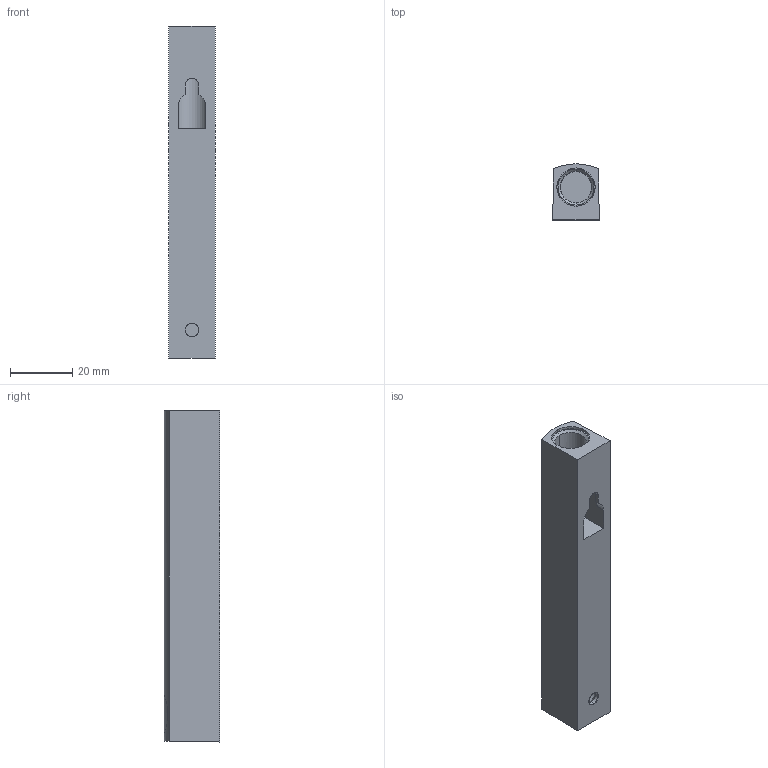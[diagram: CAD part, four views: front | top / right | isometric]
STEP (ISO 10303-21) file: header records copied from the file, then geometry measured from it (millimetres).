
FILE_DESCRIPTION((''),'2;1');
FILE_NAME('STOESSELABDECKUNG_ASM','2018-06-14T',('7ke06'),('Kesseboehmer'),'PRO/ENGINEER BY PARAMETRIC TECHNOLOGY CORPORATION, 2017170','PRO/ENGINEER BY PARAMETRIC TECHNOLOGY CORPORATION, 2017170','');
FILE_SCHEMA(('AUTOMOTIVE_DESIGN { 1 0 10303 214 1 1 1 1 }'));
Length unit declared in the file: millimetre
Products named in the file (3): 0036_306_001; 0035_035_001; STOESSELABDECKUNG_ASM
Assembly tree (2 placements, depth 2):
  STOESSELABDECKUNG_ASM
    0036_306_001
    0035_035_001
Bounding box: 15 x 18 x 107 mm (x, y, z)
Volume: 23343 mm3; surface area: 9626.3 mm2
Topology: 2 solids, 3 shells, 102 faces, 235 edges, 142 vertices
Faces by surface type: plane 32, cylinder 29, bspline 16, torus 11, cone 10, sphere 4
Entity records: 4375 total; most frequent: CARTESIAN_POINT 1463, ORIENTED_EDGE 470, DIRECTION 447, EDGE_CURVE 235, COLOUR_RGB 192, AXIS2_PLACEMENT_3D 175, VERTEX_POINT 142, EDGE_LOOP 109
